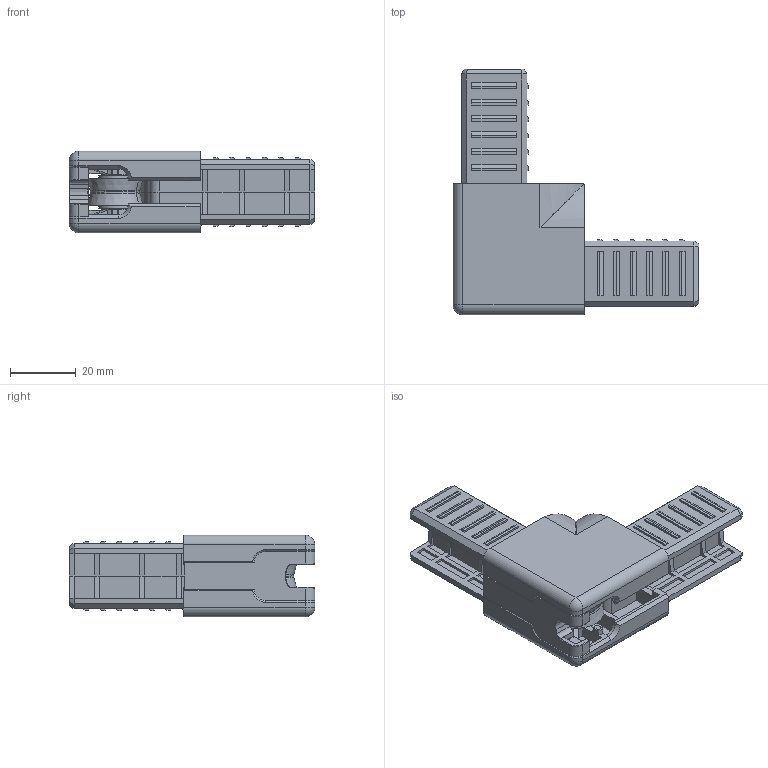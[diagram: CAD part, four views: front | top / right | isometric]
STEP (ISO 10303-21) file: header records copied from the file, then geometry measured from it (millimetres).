
FILE_DESCRIPTION (( 'STEP AP203' ), '1' );
FILE_NAME ('013.025.132.STEP', '2020-09-21T07:12:52', ( '' ), ( '' ), 'SwSTEP 2.0', 'SolidWorks 2018', '' );
FILE_SCHEMA (( 'CONFIG_CONTROL_DESIGN' ));
Length unit declared in the file: millimetre
Products named in the file (6): 013.025.132A; 013.025.132C; 013.025.132; 013.025.132B; 013.100.014; Parallel Pin ISO 2338 - 5 h6 x 20 - St_Parallel Pin ISO 2338 - 5 h6 x 20 - St
Assembly tree (5 placements, depth 2):
  013.025.132
    013.025.132A
    013.025.132B
    013.025.132C
    Parallel Pin ISO 2338 - 5 h6 x 20 - St_Parallel Pin ISO 2338 - 5 h6 x 20 - St
    013.100.014
Bounding box: 75 x 75 x 25 mm (x, y, z)
Volume: 30241 mm3; surface area: 30868.5 mm2
Topology: 5 solids, 5 shells, 1112 faces, 2921 edges, 1876 vertices
Faces by surface type: plane 817, cylinder 148, cone 80, torus 28, sphere 28, bspline 11
Entity records: 34966 total; most frequent: CARTESIAN_POINT 7131, ORIENTED_EDGE 5836, DIRECTION 5404, EDGE_CURVE 2918, VECTOR 2184, LINE 2184, VERTEX_POINT 1876, AXIS2_PLACEMENT_3D 1610
